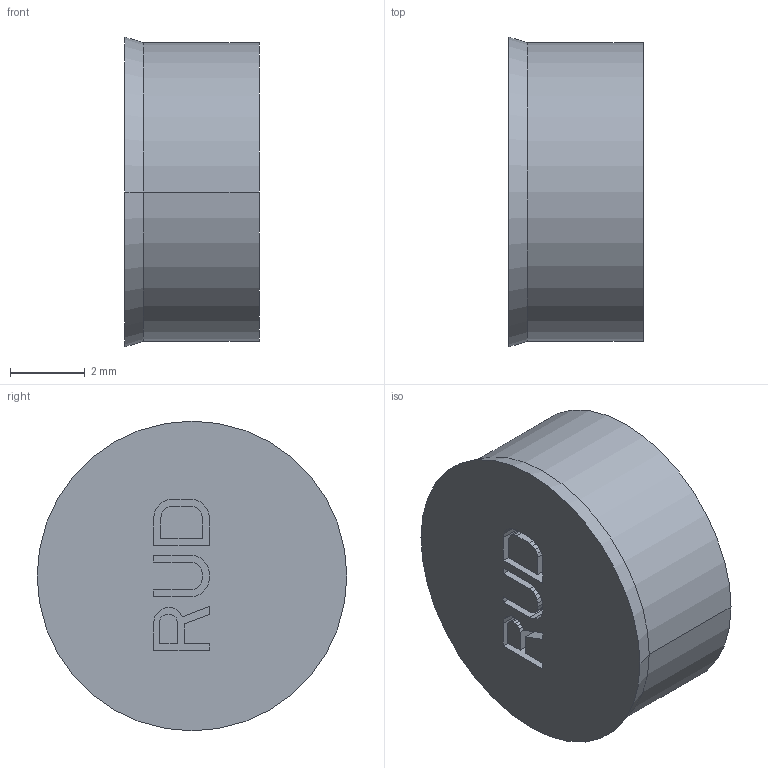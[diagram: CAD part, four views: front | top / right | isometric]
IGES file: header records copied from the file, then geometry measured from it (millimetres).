
Start section:  PTC IGES file: 001-m34085-p2.igs
Global section: file name: 001-m34085-p2.igs; native system: Pro/ENGINEER by Parametric Technology Corporation; preprocessor: 2011490; author: anja.joas; organization: Unknown; date: 20190312.144541; units: millimetre
Bounding box: 3.6 x 8.3 x 8.3 mm (x, y, z)
Volume: 180.8 mm3; surface area: 208 mm2
Topology: 1 solids, 1 shells, 89 faces, 244 edges, 162 vertices
Faces by surface type: bspline 85, revolution 4
